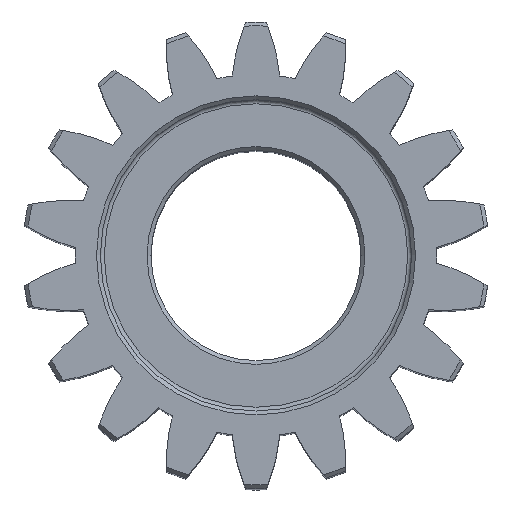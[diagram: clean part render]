
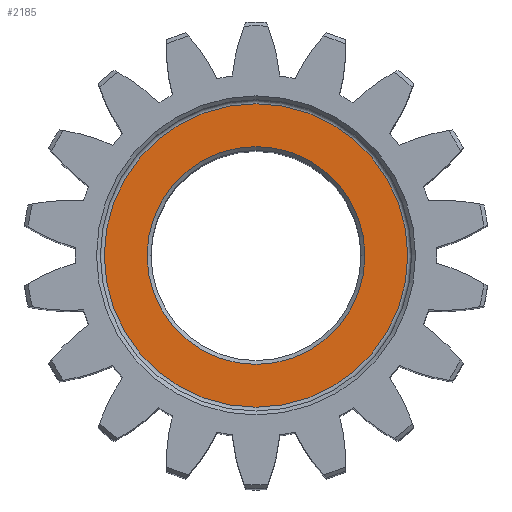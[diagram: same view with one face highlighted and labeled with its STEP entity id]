
A CAD part, top view. The second image highlights one B-rep face of the part: STEP entity #2185.
In plain terms, the highlighted planar face has unit normal (0, 0, 1).
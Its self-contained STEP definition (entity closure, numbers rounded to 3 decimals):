
#31=FACE_BOUND('',#469,.T.);
#35=PLANE('',#2528);
#345=FACE_OUTER_BOUND('',#468,.T.);
#468=EDGE_LOOP('',(#1881));
#469=EDGE_LOOP('',(#1882));
#698=CIRCLE('',#2524,39.);
#702=CIRCLE('',#2529,28.);
#1005=VERTEX_POINT('',#4159);
#1008=VERTEX_POINT('',#4167);
#1346=EDGE_CURVE('',#1005,#1005,#698,.T.);
#1350=EDGE_CURVE('',#1008,#1008,#702,.T.);
#1881=ORIENTED_EDGE('',*,*,#1346,.F.);
#1882=ORIENTED_EDGE('',*,*,#1350,.F.);
#2185=ADVANCED_FACE('',(#345,#31),#35,.T.);
#2524=AXIS2_PLACEMENT_3D('',#4160,#3182,#3183);
#2528=AXIS2_PLACEMENT_3D('',#4166,#3190,#3191);
#2529=AXIS2_PLACEMENT_3D('',#4168,#3192,#3193);
#3182=DIRECTION('center_axis',(0.,0.,-1.));
#3183=DIRECTION('ref_axis',(-1.,0.,0.));
#3190=DIRECTION('center_axis',(0.,0.,1.));
#3191=DIRECTION('ref_axis',(1.,0.,0.));
#3192=DIRECTION('center_axis',(0.,0.,1.));
#3193=DIRECTION('ref_axis',(-1.,0.,0.));
#4159=CARTESIAN_POINT('',(39.,0.,164.));
#4160=CARTESIAN_POINT('Origin',(0.,0.,164.));
#4166=CARTESIAN_POINT('Origin',(0.,0.,164.));
#4167=CARTESIAN_POINT('',(28.,0.,164.));
#4168=CARTESIAN_POINT('Origin',(0.,0.,164.));
